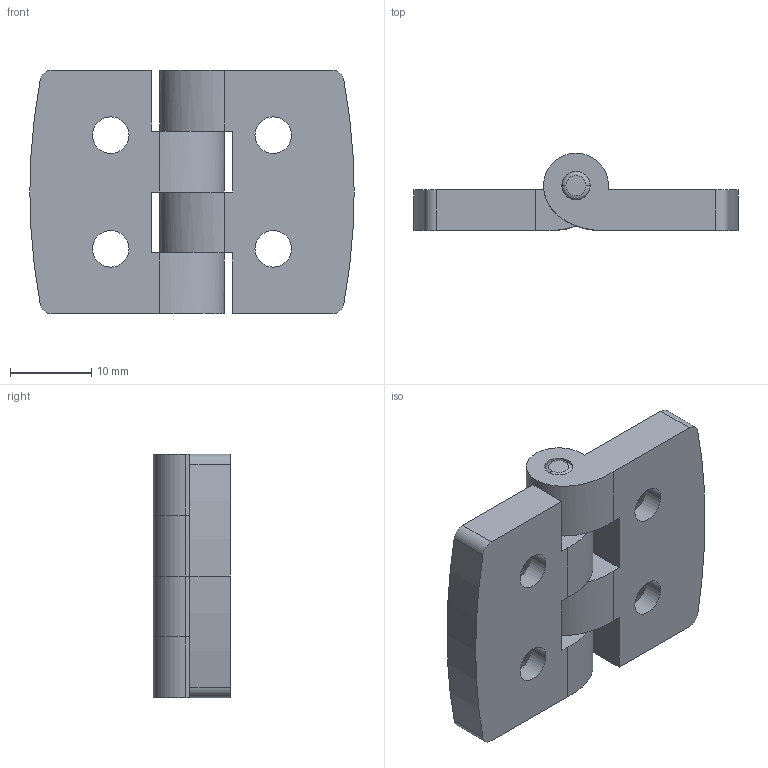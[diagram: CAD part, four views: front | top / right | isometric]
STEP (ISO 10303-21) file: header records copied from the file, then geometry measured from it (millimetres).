
FILE_DESCRIPTION (( 'STEP AP203' ), '1' );
FILE_NAME ('202-CE-HG-20.STEP', '2015-07-09T09:24:08', ( '' ), ( '' ), 'SwSTEP 2.0', 'SolidWorks 2013', '' );
FILE_SCHEMA (( 'CONFIG_CONTROL_DESIGN' ));
Length unit declared in the file: millimetre
Products named in the file (1): 202-CE-HG-20
Bounding box: 39.94 x 9.52 x 30 mm (x, y, z)
Surface area: 3971.8 mm2 (no closed solid volume)
Topology: 0 solids, 4 shells, 64 faces, 182 edges, 124 vertices
Faces by surface type: cylinder 28, plane 20, cone 8, bspline 4, torus 4
Entity records: 2258 total; most frequent: CARTESIAN_POINT 423, DIRECTION 388, ORIENTED_EDGE 352, EDGE_CURVE 182, AXIS2_PLACEMENT_3D 153, VERTEX_POINT 124, CIRCLE 92, VECTOR 82
